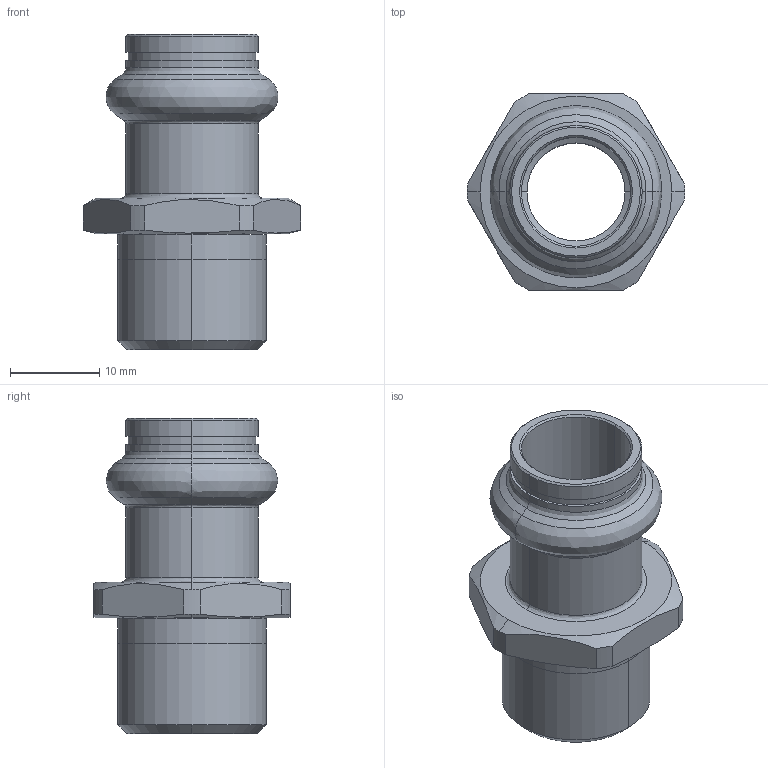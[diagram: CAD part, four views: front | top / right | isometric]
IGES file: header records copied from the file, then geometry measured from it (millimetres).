
Start section: Elysium IGES Interface
Global section: file name: C:\3d modellen sudo\C-Pr VP\SP8243GV\8243GVW1238.igs; native system: CoCreate Modeling 17.00A  17-Jun-2010; preprocessor: CoCreate IGES_3D V2.2; author: Unknown; organization: Unknown; date: 20130305.103027; units: millimetre
Bounding box: 24.4 x 22 x 35.36 mm (x, y, z)
Volume: 4302.6 mm3; surface area: 3842.3 mm2
Topology: 1 solids, 1 shells, 60 faces, 138 edges, 84 vertices
Faces by surface type: bspline 60
